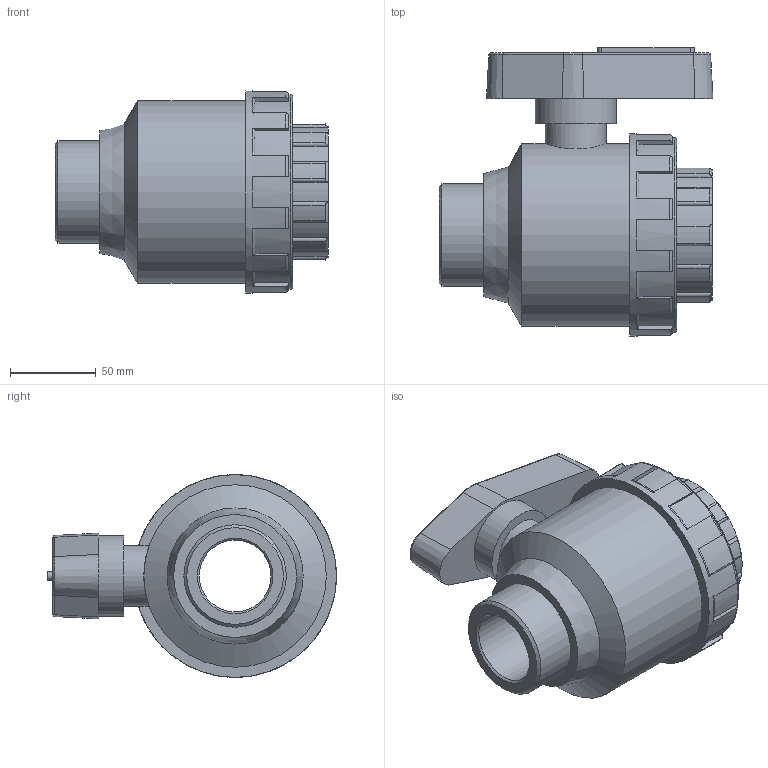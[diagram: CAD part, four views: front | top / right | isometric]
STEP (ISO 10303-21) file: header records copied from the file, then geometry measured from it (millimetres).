
FILE_DESCRIPTION(/* description */ ('PLASSON ONE NUT VALVE MALE-FEMALE ADAPTOR 2" PVC'),/* implementation_level */ '2;1');
FILE_NAME(/* name */ 'C:\Dropbox\KIMPROJECTS-Inventor\99-16-3568-Processing\PVC Catalog 2017\113610\11361020.ipt.stp',/* time_stamp */ '2017-12-07T16:12:27+02:00',/* author */ ('KIM'),/* organization */ (''),/* preprocessor_version */ 'ST-DEVELOPER v15.6',/* originating_system */ 'Autodesk Inventor 2015',/* authorisation */ '');
FILE_SCHEMA (('AUTOMOTIVE_DESIGN { 1 0 10303 214 3 1 1 }'));
Length unit declared in the file: millimetre
Products named in the file (1): 11361020
Bounding box: 159.39 x 168.18 x 118 mm (x, y, z)
Volume: 1014597.5 mm3; surface area: 105765.6 mm2
Topology: 1 solids, 1 shells, 168 faces, 442 edges, 284 vertices
Faces by surface type: plane 65, cylinder 55, torus 29, cone 19
Full cylindrical faces by diameter (mm): 35.4 x1, 41.73 x1, 45.325 x1, 47.2 x1, 56.656 x1, 59.614 x1, 106.2 x1, 113.28 x1, 118 x1
Entity records: 5690 total; most frequent: CARTESIAN_POINT 1584, DIRECTION 876, ORIENTED_EDGE 840, EDGE_CURVE 420, AXIS2_PLACEMENT_3D 356, VERTEX_POINT 278, EDGE_LOOP 194, CIRCLE 187
